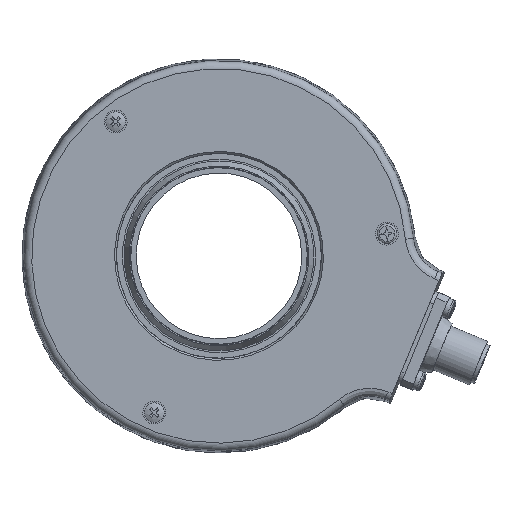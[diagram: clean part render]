
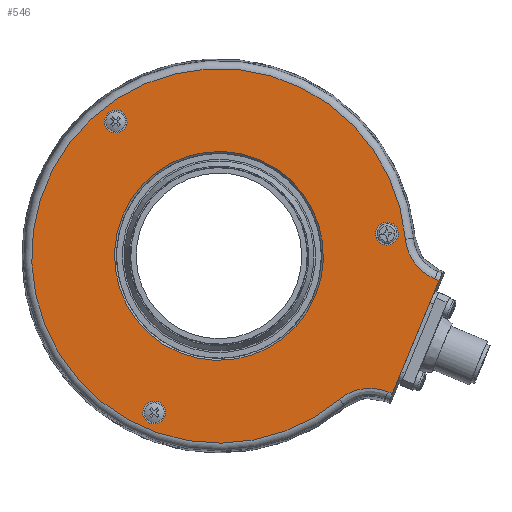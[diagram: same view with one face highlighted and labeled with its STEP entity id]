
A CAD part, left-side view. The second image highlights one B-rep face of the part: STEP entity #546.
In plain terms, the highlighted planar face has unit normal (-1, 0, 0).
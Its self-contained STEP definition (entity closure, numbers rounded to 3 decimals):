
#546 = ADVANCED_FACE ( 'NONE', ( #10065, #10070, #10059, #10060, #10068 ), #11857, .F. ) ;
#2499 = LINE ( 'NONE', #3664, #2506 ) ;
#2501 = CIRCLE ( 'NONE', #15378, 47.511 ) ;
#2502 = LINE ( 'NONE', #3678, #2505 ) ;
#2504 = CIRCLE ( 'NONE', #15377, 26.5 ) ;
#2505 = VECTOR ( 'NONE', #3665, 1000. ) ;
#2506 = VECTOR ( 'NONE', #3677, 1000. ) ;
#2508 = LINE ( 'NONE', #3712, #2509 ) ;
#2509 = VECTOR ( 'NONE', #3713, 1000. ) ;
#2510 = CIRCLE ( 'NONE', #15379, 2.9 ) ;
#2513 = CIRCLE ( 'NONE', #15380, 2.9 ) ;
#2514 = CIRCLE ( 'NONE', #15381, 2.9 ) ;
#3188 = VERTEX_POINT ( 'NONE', #6353 ) ;
#3189 = VERTEX_POINT ( 'NONE', #6354 ) ;
#3190 = VERTEX_POINT ( 'NONE', #6355 ) ;
#3191 = VERTEX_POINT ( 'NONE', #6356 ) ;
#3664 = CARTESIAN_POINT ( 'NONE',  ( -44.046, -17.966, -1.519 ) ) ;
#3665 = DIRECTION ( 'NONE',  ( 0., 0.924, 0.382 ) ) ;
#3669 = CARTESIAN_POINT ( 'NONE',  ( -44.046, -14.115, -1.894 ) ) ;
#3673 = CARTESIAN_POINT ( 'NONE',  ( -44.046, -15.051, -2.441 ) ) ;
#3674 = CARTESIAN_POINT ( 'NONE',  ( -44.046, 38.624, 2.927 ) ) ;
#3675 = DIRECTION ( 'NONE',  ( 1., 0., 0. ) ) ;
#3676 = DIRECTION ( 'NONE',  ( 0., -0.382, 0.924 ) ) ;
#3677 = DIRECTION ( 'NONE',  ( 0., -0.382, 0.924 ) ) ;
#3678 = CARTESIAN_POINT ( 'NONE',  ( -44.046, -16.047, -2.853 ) ) ;
#3679 = CARTESIAN_POINT ( 'NONE',  ( -44.046, -16.067, -2.861 ) ) ;
#3680 = CARTESIAN_POINT ( 'NONE',  ( -44.046, -12.827, -0.887 ) ) ;
#3681 = CARTESIAN_POINT ( 'NONE',  ( -44.046, -12.416, -0.518 ) ) ;
#3682 = CARTESIAN_POINT ( 'NONE',  ( -44.046, -11.658, 0.264 ) ) ;
#3683 = CARTESIAN_POINT ( 'NONE',  ( -44.046, -11.308, 0.678 ) ) ;
#3684 = CARTESIAN_POINT ( 'NONE',  ( -44.046, -10.665, 1.551 ) ) ;
#3685 = CARTESIAN_POINT ( 'NONE',  ( -44.046, -10.371, 2.012 ) ) ;
#3686 = CARTESIAN_POINT ( 'NONE',  ( -44.046, -9.846, 2.976 ) ) ;
#3687 = CARTESIAN_POINT ( 'NONE',  ( -44.046, -9.62, 3.471 ) ) ;
#3688 = CARTESIAN_POINT ( 'NONE',  ( -44.046, -9.236, 4.485 ) ) ;
#3689 = CARTESIAN_POINT ( 'NONE',  ( -44.046, -9.078, 5.004 ) ) ;
#3690 = CARTESIAN_POINT ( 'NONE',  ( -44.046, -8.834, 6.067 ) ) ;
#3691 = CARTESIAN_POINT ( 'NONE',  ( -44.046, -8.747, 6.612 ) ) ;
#3692 = CARTESIAN_POINT ( 'NONE',  ( -44.046, -8.698, 7.159 ) ) ;
#3693 = CARTESIAN_POINT ( 'NONE',  ( -44.046, 7.247, -32.766 ) ) ;
#3694 = CARTESIAN_POINT ( 'NONE',  ( -44.046, 6.329, -32.19 ) ) ;
#3695 = CARTESIAN_POINT ( 'NONE',  ( -44.046, 38.624, 2.927 ) ) ;
#3696 = DIRECTION ( 'NONE',  ( -1., 0., 0. ) ) ;
#3697 = DIRECTION ( 'NONE',  ( 0., -0.382, 0.924 ) ) ;
#3698 = CARTESIAN_POINT ( 'NONE',  ( -44.046, 8.09, -33.473 ) ) ;
#3699 = CARTESIAN_POINT ( 'NONE',  ( -44.046, 4.841, -31.514 ) ) ;
#3700 = CARTESIAN_POINT ( 'NONE',  ( -44.046, 4.323, -31.321 ) ) ;
#3701 = CARTESIAN_POINT ( 'NONE',  ( -44.046, 3.279, -31.01 ) ) ;
#3702 = CARTESIAN_POINT ( 'NONE',  ( -44.046, 2.75, -30.891 ) ) ;
#3703 = CARTESIAN_POINT ( 'NONE',  ( -44.046, 1.679, -30.725 ) ) ;
#3704 = CARTESIAN_POINT ( 'NONE',  ( -44.046, 1.135, -30.678 ) ) ;
#3705 = CARTESIAN_POINT ( 'NONE',  ( -44.046, 0.037, -30.659 ) ) ;
#3706 = CARTESIAN_POINT ( 'NONE',  ( -44.046, -0.507, -30.687 ) ) ;
#3707 = CARTESIAN_POINT ( 'NONE',  ( -44.046, -1.583, -30.816 ) ) ;
#3708 = CARTESIAN_POINT ( 'NONE',  ( -44.046, -2.116, -30.916 ) ) ;
#3709 = CARTESIAN_POINT ( 'NONE',  ( -44.046, -3.172, -31.191 ) ) ;
#3710 = CARTESIAN_POINT ( 'NONE',  ( -44.046, -3.695, -31.366 ) ) ;
#3711 = CARTESIAN_POINT ( 'NONE',  ( -44.046, -4.203, -31.576 ) ) ;
#3712 = CARTESIAN_POINT ( 'NONE',  ( -44.046, -5.352, -32.051 ) ) ;
#3713 = DIRECTION ( 'NONE',  ( 0., -0.924, -0.382 ) ) ;
#3714 = CARTESIAN_POINT ( 'NONE',  ( -44.046, -4.003, 8.578 ) ) ;
#3715 = DIRECTION ( 'NONE',  ( -1., 0., 0. ) ) ;
#3716 = DIRECTION ( 'NONE',  ( 0., -0.991, 0.131 ) ) ;
#3717 = CARTESIAN_POINT ( 'NONE',  ( -44.046, 64.832, 37.017 ) ) ;
#3718 = DIRECTION ( 'NONE',  ( -1., 0., 0. ) ) ;
#3719 = DIRECTION ( 'NONE',  ( 0., 0.609, 0.793 ) ) ;
#3720 = CARTESIAN_POINT ( 'NONE',  ( -44.046, 55.044, -36.815 ) ) ;
#3721 = DIRECTION ( 'NONE',  ( -1., 0., 0. ) ) ;
#3722 = DIRECTION ( 'NONE',  ( 0., 0.382, -0.924 ) ) ;
#5335 = EDGE_CURVE ( 'NONE', #3188, #3188, #2504, .T. ) ;
#5337 = EDGE_CURVE ( 'NONE', #8667, #8679, #2499, .T. ) ;
#5339 = EDGE_CURVE ( 'NONE', #8679, #8579, #2502, .T. ) ;
#5342 = EDGE_CURVE ( 'NONE', #8579, #8605, #12972, .T. ) ;
#5344 = EDGE_CURVE ( 'NONE', #8605, #8674, #2501, .T. ) ;
#5346 = EDGE_CURVE ( 'NONE', #8674, #8607, #12966, .T. ) ;
#5349 = EDGE_CURVE ( 'NONE', #8607, #8667, #2508, .T. ) ;
#5351 = EDGE_CURVE ( 'NONE', #3189, #3189, #2510, .T. ) ;
#5353 = EDGE_CURVE ( 'NONE', #3190, #3190, #2513, .T. ) ;
#5356 = EDGE_CURVE ( 'NONE', #3191, #3191, #2514, .T. ) ;
#5686 = CARTESIAN_POINT ( 'NONE',  ( -44.046, -16.067, -2.861 ) ) ;
#5732 = CARTESIAN_POINT ( 'NONE',  ( -44.046, -8.698, 7.159 ) ) ;
#5735 = CARTESIAN_POINT ( 'NONE',  ( -44.046, -4.203, -31.576 ) ) ;
#5840 = CARTESIAN_POINT ( 'NONE',  ( -44.046, -5.352, -32.051 ) ) ;
#5852 = CARTESIAN_POINT ( 'NONE',  ( -44.046, 8.09, -33.473 ) ) ;
#5861 = CARTESIAN_POINT ( 'NONE',  ( -44.046, -17.216, -3.336 ) ) ;
#6353 = CARTESIAN_POINT ( 'NONE',  ( -44.046, 28.505, 27.419 ) ) ;
#6354 = CARTESIAN_POINT ( 'NONE',  ( -44.046, -6.878, 8.959 ) ) ;
#6355 = CARTESIAN_POINT ( 'NONE',  ( -44.046, 66.599, 39.316 ) ) ;
#6356 = CARTESIAN_POINT ( 'NONE',  ( -44.046, 56.151, -39.495 ) ) ;
#8099 = EDGE_LOOP ( 'NONE', ( #17018, #17019, #17020, #17021, #17022, #17023 ) ) ;
#8102 = EDGE_LOOP ( 'NONE', ( #17025 ) ) ;
#8105 = EDGE_LOOP ( 'NONE', ( #17026 ) ) ;
#8107 = EDGE_LOOP ( 'NONE', ( #17024 ) ) ;
#8111 = EDGE_LOOP ( 'NONE', ( #17017 ) ) ;
#8579 = VERTEX_POINT ( 'NONE', #5686 ) ;
#8605 = VERTEX_POINT ( 'NONE', #5732 ) ;
#8607 = VERTEX_POINT ( 'NONE', #5735 ) ;
#8667 = VERTEX_POINT ( 'NONE', #5840 ) ;
#8674 = VERTEX_POINT ( 'NONE', #5852 ) ;
#8679 = VERTEX_POINT ( 'NONE', #5861 ) ;
#10059 = FACE_BOUND ( 'NONE', #8107, .T. ) ;
#10060 = FACE_BOUND ( 'NONE', #8102, .T. ) ;
#10065 = FACE_BOUND ( 'NONE', #8111, .T. ) ;
#10068 = FACE_BOUND ( 'NONE', #8105, .T. ) ;
#10070 = FACE_OUTER_BOUND ( 'NONE', #8099, .T. ) ;
#10525 = AXIS2_PLACEMENT_3D ( 'NONE', #11859, #11856, #11861 ) ;
#11856 = DIRECTION ( 'NONE',  ( 1., 0., 0. ) ) ;
#11857 = PLANE ( 'NONE',  #10525 ) ;
#11859 = CARTESIAN_POINT ( 'NONE',  ( -44.046, 14.594, -7.001 ) ) ;
#11861 = DIRECTION ( 'NONE',  ( 0., -0.382, 0.924 ) ) ;
#12966 = B_SPLINE_CURVE_WITH_KNOTS ( 'NONE', 3,
 ( #3698, #3693, #3694, #3699, #3700, #3701, #3702, #3703, #3704, #3705, #3706, #3707, #3708, #3709, #3710, #3711 ),
 .UNSPECIFIED., .F., .F.,
 ( 4, 2, 2, 2, 2, 2, 2, 4 ),
 ( 0., 0.003, 0.005, 0.007, 0.008, 0.01, 0.011, 0.013 ),
 .UNSPECIFIED. ) ;
#12972 = B_SPLINE_CURVE_WITH_KNOTS ( 'NONE', 3,
 ( #3679, #3673, #3669, #3680, #3681, #3682, #3683, #3684, #3685, #3686, #3687, #3688, #3689, #3690, #3691, #3692 ),
 .UNSPECIFIED., .F., .F.,
 ( 4, 2, 2, 2, 2, 2, 2, 4 ),
 ( 0., 0.003, 0.005, 0.007, 0.008, 0.01, 0.011, 0.013 ),
 .UNSPECIFIED. ) ;
#15377 = AXIS2_PLACEMENT_3D ( 'NONE', #3674, #3675, #3676 ) ;
#15378 = AXIS2_PLACEMENT_3D ( 'NONE', #3695, #3696, #3697 ) ;
#15379 = AXIS2_PLACEMENT_3D ( 'NONE', #3714, #3715, #3716 ) ;
#15380 = AXIS2_PLACEMENT_3D ( 'NONE', #3717, #3718, #3719 ) ;
#15381 = AXIS2_PLACEMENT_3D ( 'NONE', #3720, #3721, #3722 ) ;
#17017 = ORIENTED_EDGE ( 'NONE', *, *, #5335, .T. ) ;
#17018 = ORIENTED_EDGE ( 'NONE', *, *, #5337, .T. ) ;
#17019 = ORIENTED_EDGE ( 'NONE', *, *, #5339, .T. ) ;
#17020 = ORIENTED_EDGE ( 'NONE', *, *, #5342, .T. ) ;
#17021 = ORIENTED_EDGE ( 'NONE', *, *, #5344, .T. ) ;
#17022 = ORIENTED_EDGE ( 'NONE', *, *, #5346, .T. ) ;
#17023 = ORIENTED_EDGE ( 'NONE', *, *, #5349, .T. ) ;
#17024 = ORIENTED_EDGE ( 'NONE', *, *, #5351, .F. ) ;
#17025 = ORIENTED_EDGE ( 'NONE', *, *, #5353, .F. ) ;
#17026 = ORIENTED_EDGE ( 'NONE', *, *, #5356, .F. ) ;
